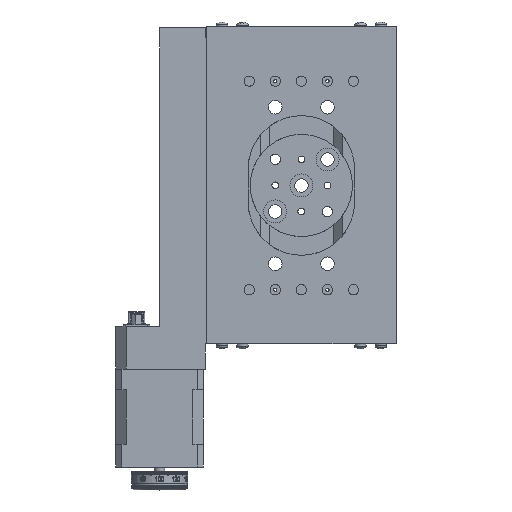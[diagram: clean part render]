
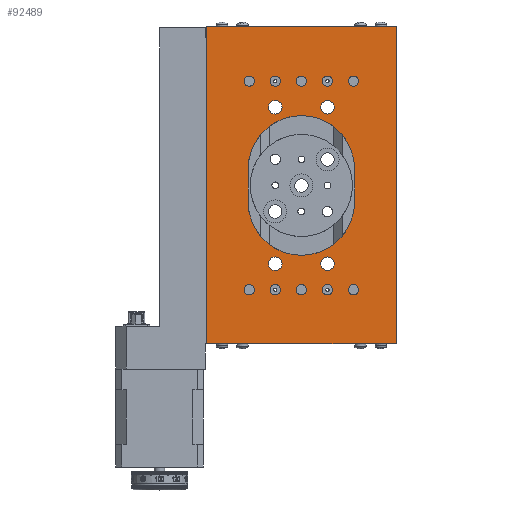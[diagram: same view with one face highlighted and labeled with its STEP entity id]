
A CAD part, front view. The second image highlights one B-rep face of the part: STEP entity #92489.
In plain terms, the highlighted planar face has unit normal (0, -1, 0).
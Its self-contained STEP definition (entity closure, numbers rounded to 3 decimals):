
#92003=CARTESIAN_POINT('',(-41.824,-4.772,152.));
#92004=VERTEX_POINT('',#92003);
#92013=CARTESIAN_POINT('',(49.176,-4.772,152.));
#92014=VERTEX_POINT('',#92013);
#92015=CARTESIAN_POINT('',(49.176,-4.772,152.));
#92016=DIRECTION('',(-1.0,0.0,0.0));
#92017=VECTOR('',#92016,91.);
#92018=LINE('',#92015,#92017);
#92019=EDGE_CURVE('',#92014,#92004,#92018,.T.);
#92269=CARTESIAN_POINT('',(3.676,-4.772,0.0));
#92270=DIRECTION('',(0.0,-1.0,0.0));
#92271=DIRECTION('',(0.0,0.0,-1.0));
#92272=AXIS2_PLACEMENT_3D('',#92269,#92270,#92271);
#92273=PLANE('',#92272);
#92274=ORIENTED_EDGE('',*,*,#92019,.T.);
#92275=CARTESIAN_POINT('',(-41.824,-4.772,0.0));
#92276=VERTEX_POINT('',#92275);
#92277=CARTESIAN_POINT('',(-41.824,-4.772,0.0));
#92278=DIRECTION('',(0.0,0.0,1.0));
#92279=VECTOR('',#92278,152.);
#92280=LINE('',#92277,#92279);
#92281=EDGE_CURVE('',#92276,#92004,#92280,.T.);
#92282=ORIENTED_EDGE('',*,*,#92281,.F.);
#92283=CARTESIAN_POINT('',(49.176,-4.772,0.0));
#92284=VERTEX_POINT('',#92283);
#92285=CARTESIAN_POINT('',(-41.824,-4.772,0.0));
#92286=DIRECTION('',(1.0,0.0,0.0));
#92287=VECTOR('',#92286,91.);
#92288=LINE('',#92285,#92287);
#92289=EDGE_CURVE('',#92276,#92284,#92288,.T.);
#92290=ORIENTED_EDGE('',*,*,#92289,.T.);
#92291=CARTESIAN_POINT('',(49.176,-4.772,0.0));
#92292=DIRECTION('',(0.0,0.0,1.0));
#92293=VECTOR('',#92292,152.);
#92294=LINE('',#92291,#92293);
#92295=EDGE_CURVE('',#92284,#92014,#92294,.T.);
#92296=ORIENTED_EDGE('',*,*,#92295,.T.);
#92297=EDGE_LOOP('',(#92274,#92282,#92290,#92296));
#92298=FACE_OUTER_BOUND('',#92297,.T.);
#92299=CARTESIAN_POINT('',(-6.366,-4.772,26.0));
#92300=VERTEX_POINT('',#92299);
#92301=CARTESIAN_POINT('',(-8.824,-4.772,26.0));
#92302=DIRECTION('',(0.0,1.0,0.0));
#92303=DIRECTION('',(1.0,0.0,0.0));
#92304=AXIS2_PLACEMENT_3D('',#92301,#92302,#92303);
#92305=CIRCLE('',#92304,2.459);
#92306=EDGE_CURVE('',#92300,#92300,#92305,.T.);
#92307=ORIENTED_EDGE('',*,*,#92306,.T.);
#92308=EDGE_LOOP('',(#92307));
#92309=FACE_BOUND('',#92308,.T.);
#92310=CARTESIAN_POINT('',(18.634,-4.772,26.0));
#92311=VERTEX_POINT('',#92310);
#92312=CARTESIAN_POINT('',(16.176,-4.772,26.0));
#92313=DIRECTION('',(0.0,1.0,0.0));
#92314=DIRECTION('',(1.0,0.0,0.0));
#92315=AXIS2_PLACEMENT_3D('',#92312,#92313,#92314);
#92316=CIRCLE('',#92315,2.459);
#92317=EDGE_CURVE('',#92311,#92311,#92316,.T.);
#92318=ORIENTED_EDGE('',*,*,#92317,.T.);
#92319=EDGE_LOOP('',(#92318));
#92320=FACE_BOUND('',#92319,.T.);
#92321=CARTESIAN_POINT('',(31.134,-4.772,126.));
#92322=VERTEX_POINT('',#92321);
#92323=CARTESIAN_POINT('',(28.676,-4.772,126.));
#92324=DIRECTION('',(0.0,1.0,0.0));
#92325=DIRECTION('',(1.0,0.0,0.0));
#92326=AXIS2_PLACEMENT_3D('',#92323,#92324,#92325);
#92327=CIRCLE('',#92326,2.459);
#92328=EDGE_CURVE('',#92322,#92322,#92327,.T.);
#92329=ORIENTED_EDGE('',*,*,#92328,.T.);
#92330=EDGE_LOOP('',(#92329));
#92331=FACE_BOUND('',#92330,.T.);
#92332=CARTESIAN_POINT('',(6.134,-4.772,126.));
#92333=VERTEX_POINT('',#92332);
#92334=CARTESIAN_POINT('',(3.676,-4.772,126.));
#92335=DIRECTION('',(0.0,1.0,0.0));
#92336=DIRECTION('',(1.0,0.0,0.0));
#92337=AXIS2_PLACEMENT_3D('',#92334,#92335,#92336);
#92338=CIRCLE('',#92337,2.459);
#92339=EDGE_CURVE('',#92333,#92333,#92338,.T.);
#92340=ORIENTED_EDGE('',*,*,#92339,.T.);
#92341=EDGE_LOOP('',(#92340));
#92342=FACE_BOUND('',#92341,.T.);
#92343=CARTESIAN_POINT('',(-18.866,-4.772,126.));
#92344=VERTEX_POINT('',#92343);
#92345=CARTESIAN_POINT('',(-21.324,-4.772,126.));
#92346=DIRECTION('',(0.0,1.0,0.0));
#92347=DIRECTION('',(1.0,0.0,0.0));
#92348=AXIS2_PLACEMENT_3D('',#92345,#92346,#92347);
#92349=CIRCLE('',#92348,2.459);
#92350=EDGE_CURVE('',#92344,#92344,#92349,.T.);
#92351=ORIENTED_EDGE('',*,*,#92350,.T.);
#92352=EDGE_LOOP('',(#92351));
#92353=FACE_BOUND('',#92352,.T.);
#92354=CARTESIAN_POINT('',(-6.366,-4.772,126.));
#92355=VERTEX_POINT('',#92354);
#92356=CARTESIAN_POINT('',(-8.824,-4.772,126.));
#92357=DIRECTION('',(0.0,1.0,0.0));
#92358=DIRECTION('',(1.0,0.0,0.0));
#92359=AXIS2_PLACEMENT_3D('',#92356,#92357,#92358);
#92360=CIRCLE('',#92359,2.459);
#92361=EDGE_CURVE('',#92355,#92355,#92360,.T.);
#92362=ORIENTED_EDGE('',*,*,#92361,.T.);
#92363=EDGE_LOOP('',(#92362));
#92364=FACE_BOUND('',#92363,.T.);
#92365=CARTESIAN_POINT('',(18.634,-4.772,126.));
#92366=VERTEX_POINT('',#92365);
#92367=CARTESIAN_POINT('',(16.176,-4.772,126.));
#92368=DIRECTION('',(0.0,1.0,0.0));
#92369=DIRECTION('',(1.0,0.0,0.0));
#92370=AXIS2_PLACEMENT_3D('',#92367,#92368,#92369);
#92371=CIRCLE('',#92370,2.459);
#92372=EDGE_CURVE('',#92366,#92366,#92371,.T.);
#92373=ORIENTED_EDGE('',*,*,#92372,.T.);
#92374=EDGE_LOOP('',(#92373));
#92375=FACE_BOUND('',#92374,.T.);
#92376=CARTESIAN_POINT('',(31.134,-4.772,26.0));
#92377=VERTEX_POINT('',#92376);
#92378=CARTESIAN_POINT('',(28.676,-4.772,26.0));
#92379=DIRECTION('',(0.0,1.0,0.0));
#92380=DIRECTION('',(1.0,0.0,0.0));
#92381=AXIS2_PLACEMENT_3D('',#92378,#92379,#92380);
#92382=CIRCLE('',#92381,2.459);
#92383=EDGE_CURVE('',#92377,#92377,#92382,.T.);
#92384=ORIENTED_EDGE('',*,*,#92383,.T.);
#92385=EDGE_LOOP('',(#92384));
#92386=FACE_BOUND('',#92385,.T.);
#92387=CARTESIAN_POINT('',(6.134,-4.772,26.0));
#92388=VERTEX_POINT('',#92387);
#92389=CARTESIAN_POINT('',(3.676,-4.772,26.0));
#92390=DIRECTION('',(0.0,1.0,0.0));
#92391=DIRECTION('',(1.0,0.0,0.0));
#92392=AXIS2_PLACEMENT_3D('',#92389,#92390,#92391);
#92393=CIRCLE('',#92392,2.459);
#92394=EDGE_CURVE('',#92388,#92388,#92393,.T.);
#92395=ORIENTED_EDGE('',*,*,#92394,.T.);
#92396=EDGE_LOOP('',(#92395));
#92397=FACE_BOUND('',#92396,.T.);
#92398=CARTESIAN_POINT('',(-18.866,-4.772,26.0));
#92399=VERTEX_POINT('',#92398);
#92400=CARTESIAN_POINT('',(-21.324,-4.772,26.0));
#92401=DIRECTION('',(0.0,1.0,0.0));
#92402=DIRECTION('',(1.0,0.0,0.0));
#92403=AXIS2_PLACEMENT_3D('',#92400,#92401,#92402);
#92404=CIRCLE('',#92403,2.459);
#92405=EDGE_CURVE('',#92399,#92399,#92404,.T.);
#92406=ORIENTED_EDGE('',*,*,#92405,.T.);
#92407=EDGE_LOOP('',(#92406));
#92408=FACE_BOUND('',#92407,.T.);
#92409=CARTESIAN_POINT('',(-12.074,-4.772,113.5));
#92410=VERTEX_POINT('',#92409);
#92411=CARTESIAN_POINT('',(-8.824,-4.772,113.5));
#92412=DIRECTION('',(0.0,1.0,0.0));
#92413=DIRECTION('',(1.0,0.0,0.0));
#92414=AXIS2_PLACEMENT_3D('',#92411,#92412,#92413);
#92415=CIRCLE('',#92414,3.25);
#92416=EDGE_CURVE('',#92410,#92410,#92415,.T.);
#92417=ORIENTED_EDGE('',*,*,#92416,.T.);
#92418=EDGE_LOOP('',(#92417));
#92419=FACE_BOUND('',#92418,.T.);
#92420=CARTESIAN_POINT('',(12.926,-4.772,113.5));
#92421=VERTEX_POINT('',#92420);
#92422=CARTESIAN_POINT('',(16.176,-4.772,113.5));
#92423=DIRECTION('',(0.0,1.0,0.0));
#92424=DIRECTION('',(1.0,0.0,0.0));
#92425=AXIS2_PLACEMENT_3D('',#92422,#92423,#92424);
#92426=CIRCLE('',#92425,3.25);
#92427=EDGE_CURVE('',#92421,#92421,#92426,.T.);
#92428=ORIENTED_EDGE('',*,*,#92427,.T.);
#92429=EDGE_LOOP('',(#92428));
#92430=FACE_BOUND('',#92429,.T.);
#92431=CARTESIAN_POINT('',(-12.074,-4.772,38.5));
#92432=VERTEX_POINT('',#92431);
#92433=CARTESIAN_POINT('',(-8.824,-4.772,38.5));
#92434=DIRECTION('',(0.0,1.0,0.0));
#92435=DIRECTION('',(1.0,0.0,0.0));
#92436=AXIS2_PLACEMENT_3D('',#92433,#92434,#92435);
#92437=CIRCLE('',#92436,3.25);
#92438=EDGE_CURVE('',#92432,#92432,#92437,.T.);
#92439=ORIENTED_EDGE('',*,*,#92438,.T.);
#92440=EDGE_LOOP('',(#92439));
#92441=FACE_BOUND('',#92440,.T.);
#92442=CARTESIAN_POINT('',(12.926,-4.772,38.5));
#92443=VERTEX_POINT('',#92442);
#92444=CARTESIAN_POINT('',(16.176,-4.772,38.5));
#92445=DIRECTION('',(0.0,1.0,0.0));
#92446=DIRECTION('',(1.0,0.0,0.0));
#92447=AXIS2_PLACEMENT_3D('',#92444,#92445,#92446);
#92448=CIRCLE('',#92447,3.25);
#92449=EDGE_CURVE('',#92443,#92443,#92448,.T.);
#92450=ORIENTED_EDGE('',*,*,#92449,.T.);
#92451=EDGE_LOOP('',(#92450));
#92452=FACE_BOUND('',#92451,.T.);
#92453=CARTESIAN_POINT('',(-21.824,-4.772,68.));
#92454=VERTEX_POINT('',#92453);
#92455=CARTESIAN_POINT('',(-21.824,-4.772,84.));
#92456=VERTEX_POINT('',#92455);
#92457=CARTESIAN_POINT('',(-21.824,-4.772,68.));
#92458=DIRECTION('',(0.0,0.0,1.0));
#92459=VECTOR('',#92458,16.0);
#92460=LINE('',#92457,#92459);
#92461=EDGE_CURVE('',#92454,#92456,#92460,.T.);
#92462=ORIENTED_EDGE('',*,*,#92461,.T.);
#92463=CARTESIAN_POINT('',(29.176,-4.772,84.));
#92464=VERTEX_POINT('',#92463);
#92465=CARTESIAN_POINT('',(3.676,-4.772,84.));
#92466=DIRECTION('',(0.,-1.0,0.));
#92467=DIRECTION('',(0.707,0.,0.707));
#92468=AXIS2_PLACEMENT_3D('',#92465,#92466,#92467);
#92469=CIRCLE('',#92468,25.5);
#92470=EDGE_CURVE('',#92464,#92456,#92469,.T.);
#92471=ORIENTED_EDGE('',*,*,#92470,.F.);
#92472=CARTESIAN_POINT('',(29.176,-4.772,68.));
#92473=VERTEX_POINT('',#92472);
#92474=CARTESIAN_POINT('',(29.176,-4.772,84.));
#92475=DIRECTION('',(0.0,0.0,-1.0));
#92476=VECTOR('',#92475,16.0);
#92477=LINE('',#92474,#92476);
#92478=EDGE_CURVE('',#92464,#92473,#92477,.T.);
#92479=ORIENTED_EDGE('',*,*,#92478,.T.);
#92480=CARTESIAN_POINT('',(3.676,-4.772,68.));
#92481=DIRECTION('',(0.,-1.0,0.));
#92482=DIRECTION('',(-0.707,0.,-0.707));
#92483=AXIS2_PLACEMENT_3D('',#92480,#92481,#92482);
#92484=CIRCLE('',#92483,25.5);
#92485=EDGE_CURVE('',#92454,#92473,#92484,.T.);
#92486=ORIENTED_EDGE('',*,*,#92485,.F.);
#92487=EDGE_LOOP('',(#92462,#92471,#92479,#92486));
#92488=FACE_BOUND('',#92487,.T.);
#92489=ADVANCED_FACE('',(#92298,#92309,#92320,#92331,#92342,#92353,#92364,#92375,#92386,#92397,#92408,#92419,#92430,#92441,#92452,#92488),#92273,.T.);
